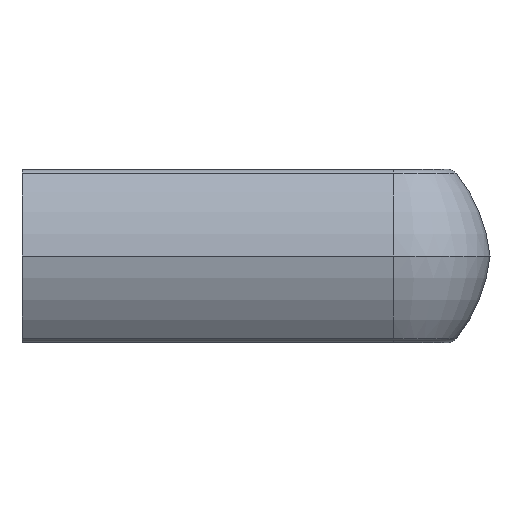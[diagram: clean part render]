
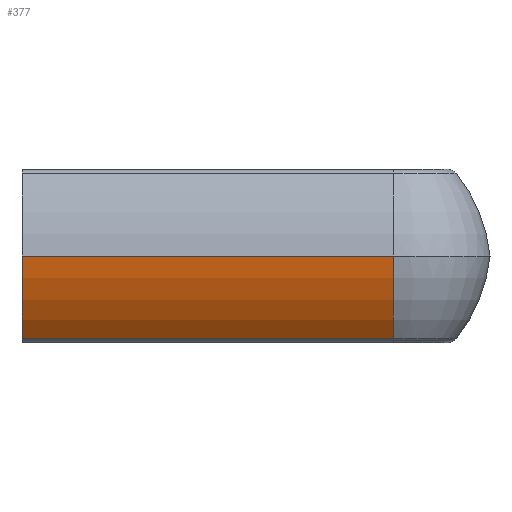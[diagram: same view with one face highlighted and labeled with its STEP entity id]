
A CAD part, left-side view. The second image highlights one B-rep face of the part: STEP entity #377.
In plain terms, the highlighted cylindrical face has radius 11.856 mm (diameter 23.711 mm), a partial arc.
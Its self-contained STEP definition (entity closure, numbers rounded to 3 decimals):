
#207 = VERTEX_POINT( '', #548 );
#217 = VERTEX_POINT( '', #560 );
#251 = VERTEX_POINT( '', #598 );
#285 = EDGE_CURVE( '', #217, #251, #632, .T. );
#323 = EDGE_CURVE( '', #207, #401, #675, .T. );
#377 = ADVANCED_FACE( '', ( #735 ), #736, .T. );
#385 = EDGE_CURVE( '', #401, #251, #746, .T. );
#401 = VERTEX_POINT( '', #765 );
#429 = EDGE_CURVE( '', #207, #217, #798, .T. );
#548 = CARTESIAN_POINT( '', ( -0.48, 0., -6.184 ) );
#560 = CARTESIAN_POINT( '', ( -0.48, -27.75, -6.184 ) );
#598 = CARTESIAN_POINT( '', ( -3., -27.75, 0. ) );
#632 = CIRCLE( '', #1035, 11.856 );
#675 = CIRCLE( '', #1087, 11.856 );
#735 = FACE_OUTER_BOUND( '', #1160, .T. );
#736 = CYLINDRICAL_SURFACE( '', #1161, 11.856 );
#746 = LINE( '', #1174, #1175 );
#765 = CARTESIAN_POINT( '', ( -3., 0., 0. ) );
#798 = LINE( '', #1237, #1238 );
#1035 = AXIS2_PLACEMENT_3D( '', #1481, #1482, #1483 );
#1087 = AXIS2_PLACEMENT_3D( '', #1546, #1547, #1548 );
#1160 = EDGE_LOOP( '', ( #1625, #1626, #1627, #1628 ) );
#1161 = AXIS2_PLACEMENT_3D( '', #1629, #1630, #1631 );
#1174 = CARTESIAN_POINT( '', ( -3., 0., 0. ) );
#1175 = VECTOR( '', #1649, 1. );
#1237 = CARTESIAN_POINT( '', ( -0.48, 0., -6.184 ) );
#1238 = VECTOR( '', #1731, 1. );
#1481 = CARTESIAN_POINT( '', ( 8.795, -27.75, 1.202 ) );
#1482 = DIRECTION( '', ( 0., 1., 0. ) );
#1483 = DIRECTION( '', ( -0.782, 0., -0.623 ) );
#1546 = CARTESIAN_POINT( '', ( 8.795, 0., 1.202 ) );
#1547 = DIRECTION( '', ( 0., 1., 0. ) );
#1548 = DIRECTION( '', ( -0.782, 0., -0.623 ) );
#1625 = ORIENTED_EDGE( '', *, *, #285, .T. );
#1626 = ORIENTED_EDGE( '', *, *, #385, .F. );
#1627 = ORIENTED_EDGE( '', *, *, #323, .F. );
#1628 = ORIENTED_EDGE( '', *, *, #429, .T. );
#1629 = CARTESIAN_POINT( '', ( 8.795, 0., 1.202 ) );
#1630 = DIRECTION( '', ( 0., 1., 0. ) );
#1631 = DIRECTION( '', ( -0.782, 0., -0.623 ) );
#1649 = DIRECTION( '', ( 0., -1., 0. ) );
#1731 = DIRECTION( '', ( 0., -1., 0. ) );
